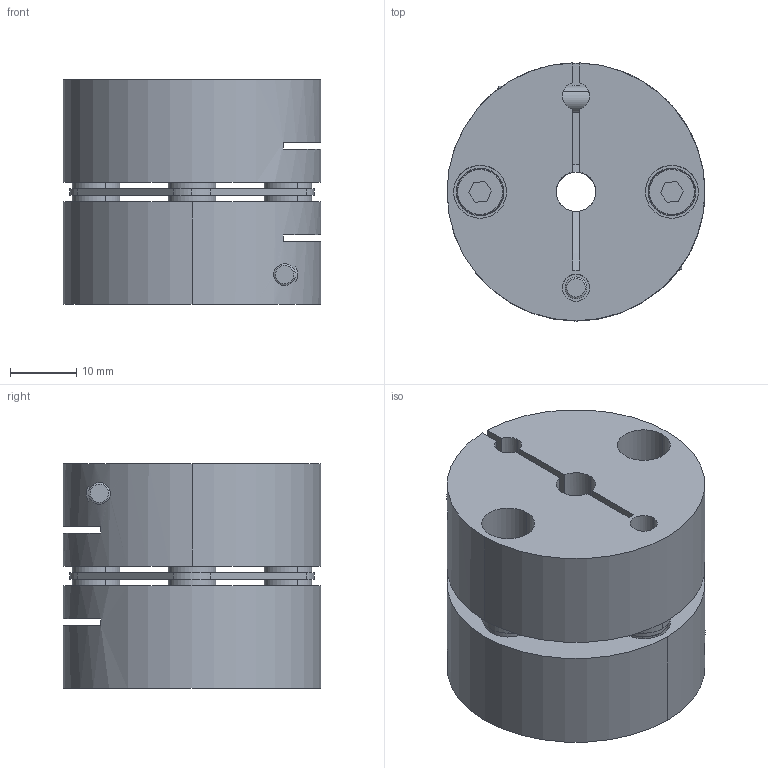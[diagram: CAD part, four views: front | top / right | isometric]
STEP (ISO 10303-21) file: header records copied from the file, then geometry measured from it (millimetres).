
FILE_DESCRIPTION (( 'STEP AP214' ), '1' );
FILE_NAME ('LC-A-035SA-6B-6B.STEP', '2019-09-12T07:18:04', ( 'admin' ), ( 'Microsoft' ), 'SwSTEP 2.0', 'SolidWorks 2016', '' );
FILE_SCHEMA (( 'AUTOMOTIVE_DESIGN' ));
Length unit declared in the file: millimetre
Products named in the file (1): LC-A-035SA-6B-6B
Bounding box: 39 x 39 x 34 mm (x, y, z)
Volume: 32227 mm3; surface area: 17709.8 mm2
Topology: 17 solids, 17 shells, 277 faces, 675 edges, 438 vertices
Faces by surface type: cylinder 127, plane 114, torus 24, cone 12
Entity records: 11932 total; most frequent: CARTESIAN_POINT 1809, DIRECTION 1525, ORIENTED_EDGE 1350, EDGE_CURVE 675, AXIS2_PLACEMENT_3D 602, VERTEX_POINT 438, EDGE_LOOP 345, CIRCLE 324
